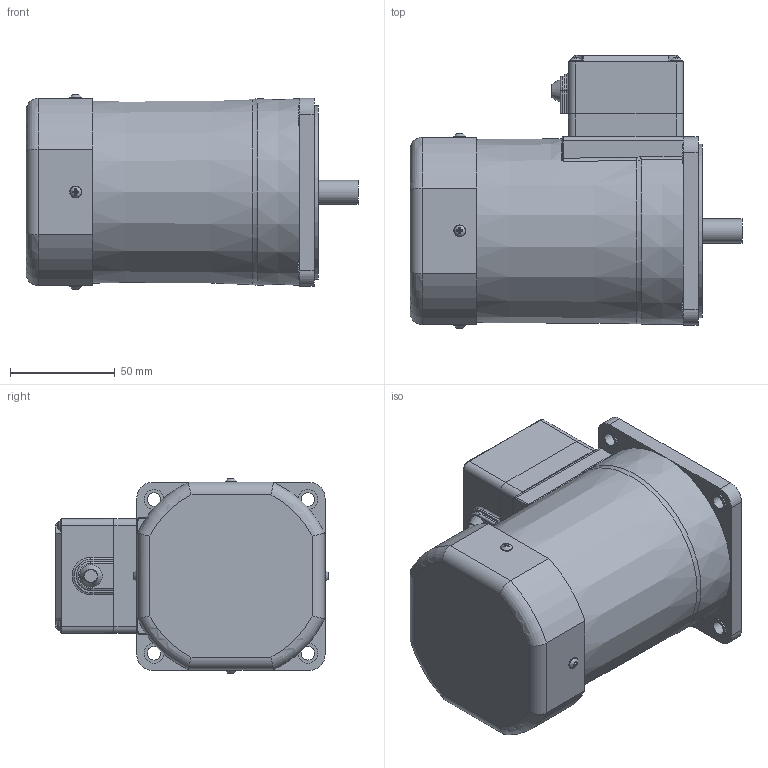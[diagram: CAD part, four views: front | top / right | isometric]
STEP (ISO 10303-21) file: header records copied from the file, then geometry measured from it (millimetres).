
FILE_DESCRIPTION((''),'2;1');
FILE_NAME('D:\김성묵\업무폴더\개발 파일\프로젝트 개발 AB등급\AC표준형 개발자료\90각 이하 표준형 개발\도면작성 자료\3D 도면\홈페이지용 3D 파일\90W MOTOR\T1 BOX TYPE\S9(I,R)90G-T1.stp','2015-03-26T19:06:30',('smkim'),(''),'Autodesk Inventor 2012','Autodesk Inventor 2012','');
FILE_SCHEMA(('AUTOMOTIVE_DESIGN { 1 0 10303 214 1 1 1 1 }'));
Length unit declared in the file: millimetre
Products named in the file (9): S9(I,R)90G-T1; S9I90GㅁTCE; S9_60_HOUSING A_접지 삭제ipt; FAN COVER; 552300620; 80 각 T1 BOX_CORD BUSH; 25W T1 BOX CORD BUSH G; 80각 T1 BOX
Assembly tree (15 placements, depth 3):
  S9(I,R)90G-T1
    S9I90GㅁTCE
    S9_60_HOUSING A_접지 삭제ipt
    FAN COVER
      FAN COVER
      552300620  x4
    80 각 T1 BOX_CORD BUSH
      25W T1 BOX CORD BUSH G
      80각 T1 BOX
    552300620  x4
Bounding box: 158.8 x 130.75 x 93.49 mm (x, y, z)
Volume: 1095746.4 mm3; surface area: 112492.4 mm2
Topology: 14 solids, 14 shells, 377 faces, 899 edges, 575 vertices
Faces by surface type: plane 216, cylinder 90, bspline 28, torus 27, cone 16
Full cylindrical faces by diameter (mm): 3 x12, 3.5 x4, 5.6 x8, 6.5 x4, 8 x1, 9.5 x4, 11.5 x1, 40 x1, 83 x1, 86 x1
Entity records: 7471 total; most frequent: CARTESIAN_POINT 2006, DIRECTION 1091, ORIENTED_EDGE 1016, EDGE_CURVE 508, AXIS2_PLACEMENT_3D 418, VERTEX_POINT 348, EDGE_LOOP 296, VECTOR 255
